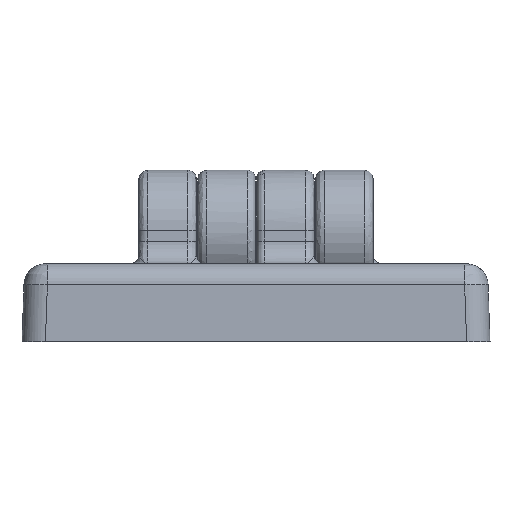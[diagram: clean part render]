
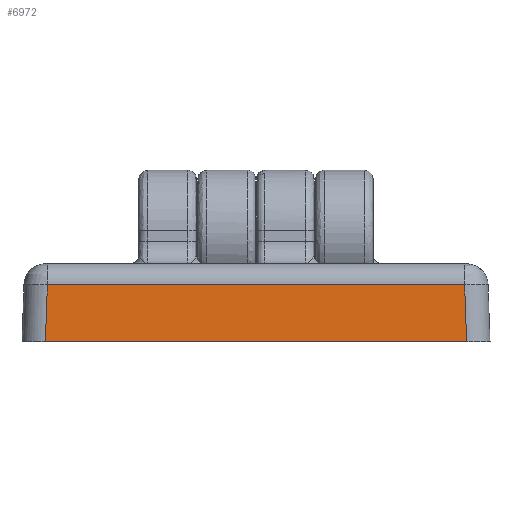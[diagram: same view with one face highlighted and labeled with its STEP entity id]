
A CAD part, left-side view. The second image highlights one B-rep face of the part: STEP entity #6972.
In plain terms, the highlighted planar face has unit normal (-0.999, 0, 0.035).
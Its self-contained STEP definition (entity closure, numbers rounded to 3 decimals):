
#80 = ORIENTED_EDGE ( 'NONE', *, *, #3039, .F. ) ;
#220 = DIRECTION ( 'NONE',  ( 0.035, 0.035, 0.999 ) ) ;
#380 = CARTESIAN_POINT ( 'NONE',  ( -27.382, 24.178, 3.649 ) ) ;
#425 = ORIENTED_EDGE ( 'NONE', *, *, #500, .T. ) ;
#468 = DIRECTION ( 'NONE',  ( -0.999, 0., 0.035 ) ) ;
#500 = EDGE_CURVE ( 'NONE', #13863, #13090, #11521, .T. ) ;
#1624 = PLANE ( 'NONE',  #1733 ) ;
#1733 = AXIS2_PLACEMENT_3D ( 'NONE', #380, #468, #7642 ) ;
#1807 = DIRECTION ( 'NONE',  ( 0., -1., 0. ) ) ;
#2880 = CARTESIAN_POINT ( 'NONE',  ( -27.382, 51.052, 3.649 ) ) ;
#2881 = VERTEX_POINT ( 'NONE', #14658 ) ;
#3007 = VECTOR ( 'NONE', #1807, 1000. ) ;
#3039 = EDGE_CURVE ( 'NONE', #9260, #2881, #10212, .T. ) ;
#3206 = CARTESIAN_POINT ( 'NONE',  ( -27.509, 51.179, 0. ) ) ;
#3239 = VECTOR ( 'NONE', #3525, 1000. ) ;
#3478 = EDGE_CURVE ( 'NONE', #9260, #13863, #4771, .T. ) ;
#3525 = DIRECTION ( 'NONE',  ( 0., -1., 0. ) ) ;
#4063 = CARTESIAN_POINT ( 'NONE',  ( -27.254, -2.569, 7.298 ) ) ;
#4771 = LINE ( 'NONE', #14756, #3239 ) ;
#5353 = DIRECTION ( 'NONE',  ( 0.035, -0.035, 0.999 ) ) ;
#6123 = ORIENTED_EDGE ( 'NONE', *, *, #12187, .F. ) ;
#6714 = ORIENTED_EDGE ( 'NONE', *, *, #3478, .T. ) ;
#6972 = ADVANCED_FACE ( 'NONE', ( #11765 ), #1624, .T. ) ;
#7642 = DIRECTION ( 'NONE',  ( 0., 1., 0. ) ) ;
#8849 = LINE ( 'NONE', #16289, #3007 ) ;
#9260 = VERTEX_POINT ( 'NONE', #3206 ) ;
#10212 = LINE ( 'NONE', #2880, #11772 ) ;
#11521 = LINE ( 'NONE', #14175, #15380 ) ;
#11765 = FACE_OUTER_BOUND ( 'NONE', #12062, .T. ) ;
#11772 = VECTOR ( 'NONE', #5353, 1000. ) ;
#12062 = EDGE_LOOP ( 'NONE', ( #425, #6123, #80, #6714 ) ) ;
#12187 = EDGE_CURVE ( 'NONE', #2881, #13090, #8849, .T. ) ;
#13090 = VERTEX_POINT ( 'NONE', #4063 ) ;
#13444 = CARTESIAN_POINT ( 'NONE',  ( -27.509, -2.824, 0. ) ) ;
#13863 = VERTEX_POINT ( 'NONE', #13444 ) ;
#14175 = CARTESIAN_POINT ( 'NONE',  ( -27.382, -2.697, 3.649 ) ) ;
#14658 = CARTESIAN_POINT ( 'NONE',  ( -27.254, 50.925, 7.298 ) ) ;
#14756 = CARTESIAN_POINT ( 'NONE',  ( -27.509, 24.178, 0. ) ) ;
#15380 = VECTOR ( 'NONE', #220, 1000. ) ;
#16289 = CARTESIAN_POINT ( 'NONE',  ( -27.254, 24.178, 7.298 ) ) ;
